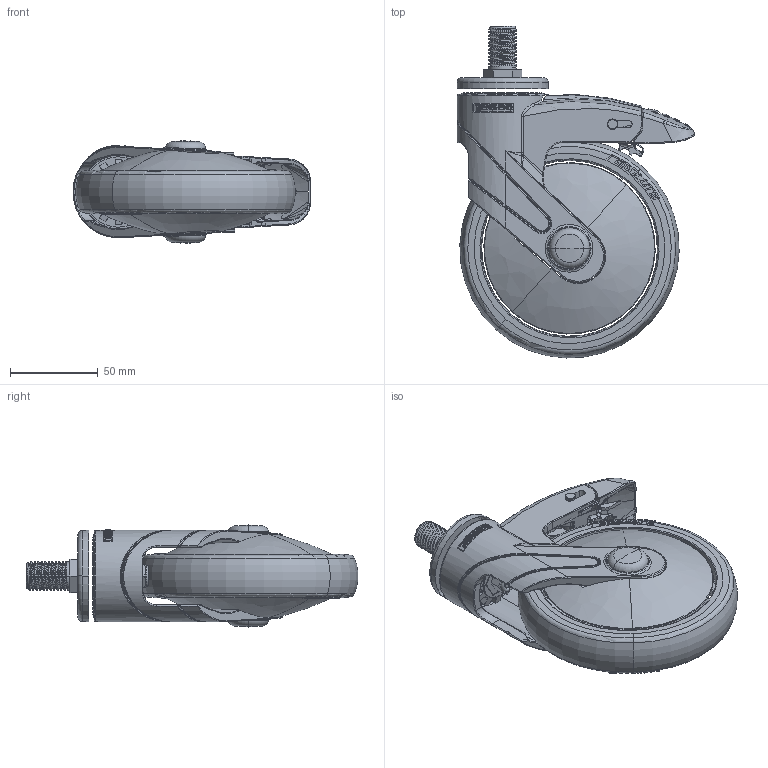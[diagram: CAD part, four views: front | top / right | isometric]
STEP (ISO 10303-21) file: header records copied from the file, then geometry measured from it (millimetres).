
FILE_DESCRIPTION((''),'2;1');
FILE_NAME('PRT0025','2026-01-16T16:13:34',('Administrator'),(''),'CREO PARAMETRIC BY PTC INC, 2022124','CREO PARAMETRIC BY PTC INC, 2022124','');
FILE_SCHEMA(('AUTOMOTIVE_DESIGN { 1 0 10303 214 1 1 1 1 }'));
Length unit declared in the file: millimetre
Products named in the file (1): PRT0025
Bounding box: 135.39 x 188.88 x 58.19 mm (x, y, z)
Surface area: 78333.8 mm2 (no closed solid volume)
Topology: 0 solids, 89 shells, 849 faces, 4188 edges, 3310 vertices
Faces by surface type: bspline 259, cylinder 240, plane 161, torus 116, cone 63, sphere 8, extrusion 2
Entity records: 74015 total; most frequent: CARTESIAN_POINT 40326, ORIENTED_EDGE 5532, DIRECTION 4392, EDGE_CURVE 4172, VERTEX_POINT 3310, B_SPLINE_CURVE_WITH_KNOTS 2105, AXIS2_PLACEMENT_3D 1720, CIRCLE 1120
